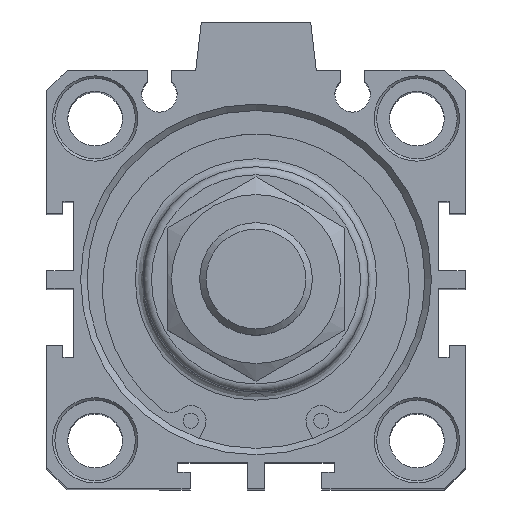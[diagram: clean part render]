
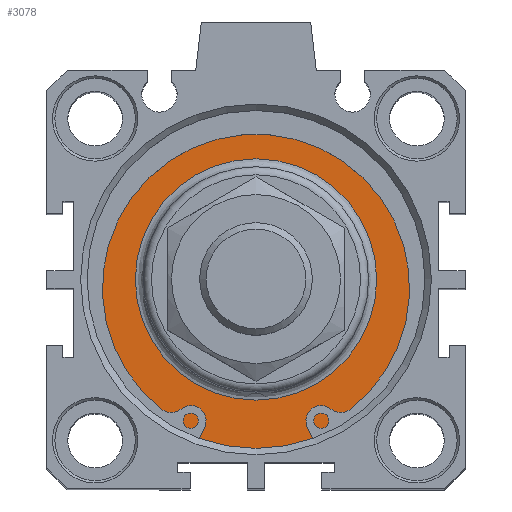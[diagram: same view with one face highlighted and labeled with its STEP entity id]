
A CAD part, top view. The second image highlights one B-rep face of the part: STEP entity #3078.
In plain terms, the highlighted planar face has unit normal (0, 0, 1).
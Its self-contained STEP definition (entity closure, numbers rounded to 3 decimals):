
#3027=CARTESIAN_POINT('',(-1.555,16.077,97.4));
#3028=VERTEX_POINT('',#3027);
#3029=CARTESIAN_POINT('',(-1.555,1.077,97.4));
#3030=DIRECTION('',(0.0,0.0,1.0));
#3031=DIRECTION('',(0.0,-1.0,0.0));
#3032=AXIS2_PLACEMENT_3D('',#3029,#3030,#3031);
#3033=CIRCLE('',#3032,15.);
#3034=EDGE_CURVE('',#3028,#3028,#3033,.T.);
#3059=CARTESIAN_POINT('',(-1.555,18.577,97.4));
#3060=DIRECTION('',(0.0,0.0,1.0));
#3061=DIRECTION('',(1.0,0.0,0.0));
#3062=AXIS2_PLACEMENT_3D('',#3059,#3060,#3061);
#3063=PLANE('',#3062);
#3064=CARTESIAN_POINT('',(-1.555,22.077,97.4));
#3065=VERTEX_POINT('',#3064);
#3066=CARTESIAN_POINT('',(-1.555,1.077,97.4));
#3067=DIRECTION('',(0.0,0.0,-1.0));
#3068=DIRECTION('',(0.0,1.0,0.0));
#3069=AXIS2_PLACEMENT_3D('',#3066,#3067,#3068);
#3070=CIRCLE('',#3069,21.);
#3071=EDGE_CURVE('',#3065,#3065,#3070,.T.);
#3072=ORIENTED_EDGE('',*,*,#3071,.F.);
#3073=EDGE_LOOP('',(#3072));
#3074=FACE_OUTER_BOUND('',#3073,.T.);
#3075=ORIENTED_EDGE('',*,*,#3034,.F.);
#3076=EDGE_LOOP('',(#3075));
#3077=FACE_BOUND('',#3076,.T.);
#3078=ADVANCED_FACE('',(#3074,#3077),#3063,.T.);
